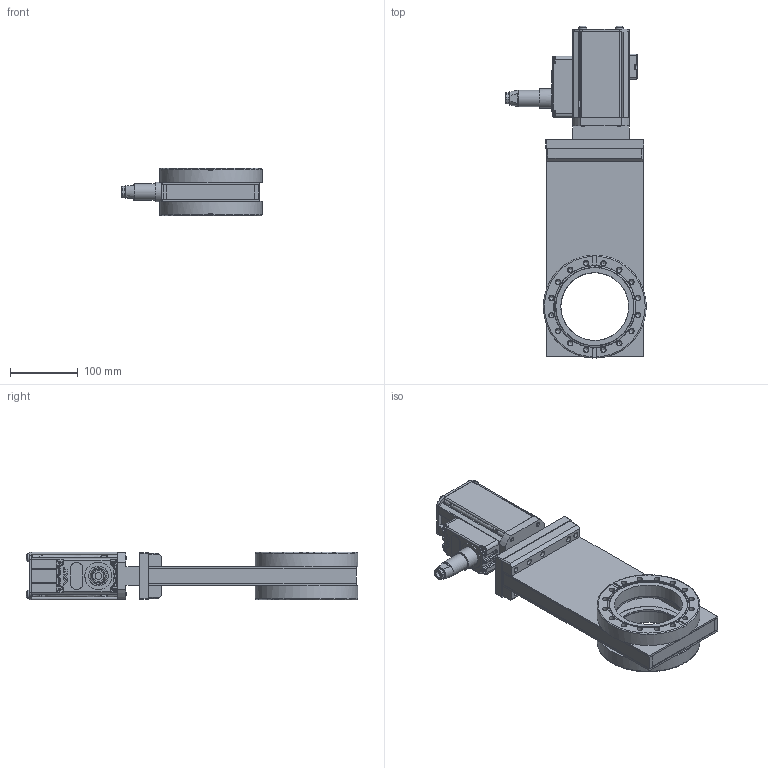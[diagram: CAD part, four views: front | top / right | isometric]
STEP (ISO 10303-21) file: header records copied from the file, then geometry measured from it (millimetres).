
FILE_DESCRIPTION((''),'2;1');
FILE_NAME('O:\MT\MT\Systeme\Cad\Datenexporte\www_vat_ch\212275.stp','2005-07-01T13:17:03',('User'),('SDRC'),'I-DEAS Master Series 9','UNIX','Yes');
FILE_SCHEMA(('CONFIG_CONTROL_DESIGN'));
Length unit declared in the file: millimetre
Assembly tree (38 placements, depth 0):
Bounding box: 207.07 x 489.89 x 70 mm (x, y, z)
Volume: 1492961.5 mm3; surface area: 515041.9 mm2
Topology: 33 solids, 33 shells, 1092 faces, 2512 edges, 1590 vertices
Faces by surface type: bspline 1092
Entity records: 30497 total; most frequent: CARTESIAN_POINT 15345, ORIENTED_EDGE 3762, EDGE_CURVE 1881, VERTEX_POINT 1208, EDGE_LOOP 1015, FACE_OUTER_BOUND 819, ADVANCED_FACE 819, QUASI_UNIFORM_CURVE 609
